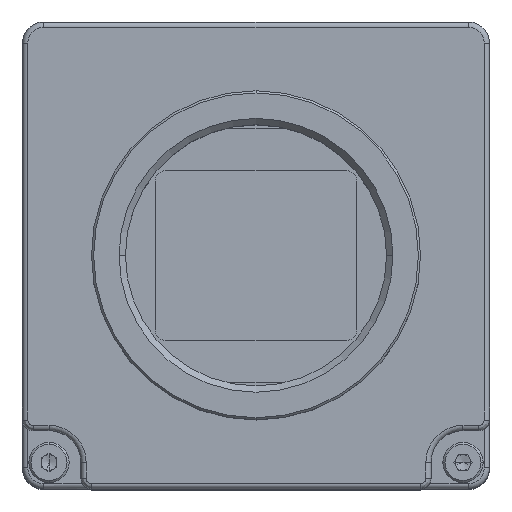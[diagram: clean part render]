
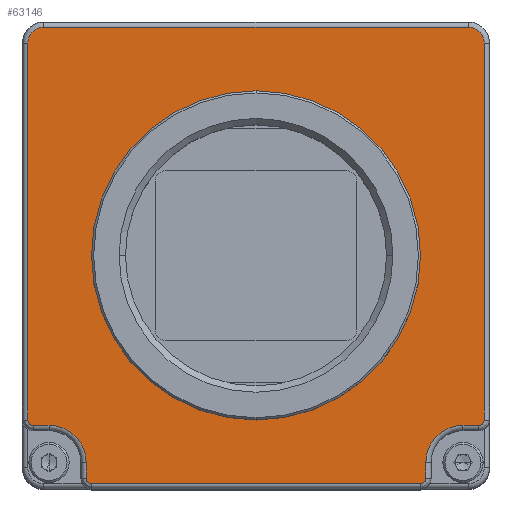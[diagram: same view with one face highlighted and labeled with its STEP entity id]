
A CAD part, top view. The second image highlights one B-rep face of the part: STEP entity #63146.
In plain terms, the highlighted planar face has unit normal (0, 0, 1).
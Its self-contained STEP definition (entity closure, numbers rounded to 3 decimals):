
#5044=CARTESIAN_POINT('',(-75.112,-620.5,82.001));
#5045=DIRECTION('',(0.,0.,1.));
#5046=DIRECTION('',(1.,0.,0.));
#5047=AXIS2_PLACEMENT_3D('',#5044,#5045,#5046);
#5049=CARTESIAN_POINT('',(-76.612,-616.5,82.001));
#5050=DIRECTION('',(0.,0.,-1.));
#5051=DIRECTION('',(0.,-1.,0.));
#5052=AXIS2_PLACEMENT_3D('',#5049,#5050,#5051);
#5054=CARTESIAN_POINT('',(-75.612,-581.,82.001));
#5055=DIRECTION('',(0.,0.,-1.));
#5056=DIRECTION('',(-1.,0.,0.));
#5057=AXIS2_PLACEMENT_3D('',#5054,#5055,#5056);
#5059=CARTESIAN_POINT('',(-35.612,-581.,82.001));
#5060=DIRECTION('',(0.,0.,-1.));
#5061=DIRECTION('',(0.,1.,0.));
#5062=AXIS2_PLACEMENT_3D('',#5059,#5060,#5061);
#5064=CARTESIAN_POINT('',(-34.612,-616.5,82.001));
#5065=DIRECTION('',(0.,0.,-1.));
#5066=DIRECTION('',(1.,0.,0.));
#5067=AXIS2_PLACEMENT_3D('',#5064,#5065,#5066);
#5069=CARTESIAN_POINT('',(-36.112,-620.5,82.001));
#5070=DIRECTION('',(0.,0.,1.));
#5071=DIRECTION('',(0.,1.,0.));
#5072=AXIS2_PLACEMENT_3D('',#5069,#5070,#5071);
#5074=CARTESIAN_POINT('',(-40.112,-622.,82.001));
#5075=DIRECTION('',(0.,0.,-1.));
#5076=DIRECTION('',(1.,0.,0.));
#5077=AXIS2_PLACEMENT_3D('',#5074,#5075,#5076);
#5079=CARTESIAN_POINT('',(-71.112,-622.,82.001));
#5080=DIRECTION('',(0.,0.,-1.));
#5081=DIRECTION('',(0.,-1.,0.));
#5082=AXIS2_PLACEMENT_3D('',#5079,#5080,#5081);
#5084=CARTESIAN_POINT('',(-55.612,-601.,82.001));
#5085=DIRECTION('',(0.,0.,1.));
#5086=DIRECTION('',(0.,-1.,0.));
#5087=AXIS2_PLACEMENT_3D('',#5084,#5085,#5086);
#5089=CARTESIAN_POINT('',(-55.612,-601.,82.001));
#5090=DIRECTION('',(0.,0.,1.));
#5091=DIRECTION('',(0.,1.,0.));
#5092=AXIS2_PLACEMENT_3D('',#5089,#5090,#5091);
#5109=DIRECTION('',(0.,-1.,0.));
#5110=VECTOR('',#5109,1.5);
#5111=CARTESIAN_POINT('',(-71.612,-620.5,82.001));
#5112=LINE('',#5111,#5110);
#5517=DIRECTION('',(1.,0.,0.));
#5518=VECTOR('',#5517,31.);
#5519=CARTESIAN_POINT('',(-71.112,-622.5,82.001));
#5520=LINE('',#5519,#5518);
#5525=DIRECTION('',(0.,1.,0.));
#5526=VECTOR('',#5525,1.5);
#5527=CARTESIAN_POINT('',(-39.612,-622.,82.001));
#5528=LINE('',#5527,#5526);
#5548=DIRECTION('',(1.,0.,0.));
#5549=VECTOR('',#5548,1.5);
#5550=CARTESIAN_POINT('',(-36.112,-617.,82.001));
#5551=LINE('',#5550,#5549);
#5588=DIRECTION('',(0.,1.,0.));
#5589=VECTOR('',#5588,35.5);
#5590=CARTESIAN_POINT('',(-34.112,-616.5,82.001));
#5591=LINE('',#5590,#5589);
#5611=DIRECTION('',(-1.,0.,0.));
#5612=VECTOR('',#5611,40.);
#5613=CARTESIAN_POINT('',(-35.612,-579.5,82.001));
#5614=LINE('',#5613,#5612);
#5634=DIRECTION('',(0.,-1.,0.));
#5635=VECTOR('',#5634,35.5);
#5636=CARTESIAN_POINT('',(-77.112,-581.,82.001));
#5637=LINE('',#5636,#5635);
#5669=DIRECTION('',(1.,0.,0.));
#5670=VECTOR('',#5669,1.5);
#5671=CARTESIAN_POINT('',(-76.612,-617.,82.001));
#5672=LINE('',#5671,#5670);
#49612=CARTESIAN_POINT('',(-55.612,-616.5,82.001));
#49613=CARTESIAN_POINT('',(-55.612,-585.5,82.001));
#49614=VERTEX_POINT('',#49612);
#49615=VERTEX_POINT('',#49613);
#49616=CARTESIAN_POINT('',(-71.612,-620.5,82.001));
#49617=CARTESIAN_POINT('',(-75.112,-617.,82.001));
#49618=VERTEX_POINT('',#49616);
#49619=VERTEX_POINT('',#49617);
#49620=CARTESIAN_POINT('',(-76.612,-617.,82.001));
#49621=VERTEX_POINT('',#49620);
#49622=CARTESIAN_POINT('',(-77.112,-616.5,
82.001));
#49623=VERTEX_POINT('',#49622);
#49624=CARTESIAN_POINT('',(-77.112,-581.,82.001));
#49625=VERTEX_POINT('',#49624);
#49626=CARTESIAN_POINT('',(-75.612,-579.5,82.001));
#49627=VERTEX_POINT('',#49626);
#49628=CARTESIAN_POINT('',(-35.612,-579.5,82.001));
#49629=VERTEX_POINT('',#49628);
#49630=CARTESIAN_POINT('',(-34.112,-581.,82.001));
#49631=VERTEX_POINT('',#49630);
#49632=CARTESIAN_POINT('',(-34.112,-616.5,82.001));
#49633=VERTEX_POINT('',#49632);
#49634=CARTESIAN_POINT('',(-34.612,-617.,82.001));
#49635=VERTEX_POINT('',#49634);
#49636=CARTESIAN_POINT('',(-36.112,-617.,82.001));
#49637=VERTEX_POINT('',#49636);
#49638=CARTESIAN_POINT('',(-39.612,-620.5,82.001));
#49639=VERTEX_POINT('',#49638);
#49640=CARTESIAN_POINT('',(-39.612,-622.,82.001));
#49641=VERTEX_POINT('',#49640);
#49642=CARTESIAN_POINT('',(-40.112,-622.5,82.001));
#49643=VERTEX_POINT('',#49642);
#49644=CARTESIAN_POINT('',(-71.112,-622.5,82.001));
#49645=VERTEX_POINT('',#49644);
#49646=CARTESIAN_POINT('',(-71.612,-622.,
82.001));
#49647=VERTEX_POINT('',#49646);
#63102=CARTESIAN_POINT('',(-55.612,-601.,82.001));
#63103=DIRECTION('',(0.,0.,1.));
#63104=DIRECTION('',(-1.,0.,0.));
#63105=AXIS2_PLACEMENT_3D('',#63102,#63103,#63104);
#63106=PLANE('',#63105);
#63108=ORIENTED_EDGE('',*,*,#63107,.T.);
#63110=ORIENTED_EDGE('',*,*,#63109,.F.);
#63112=ORIENTED_EDGE('',*,*,#63111,.T.);
#63114=ORIENTED_EDGE('',*,*,#63113,.F.);
#63116=ORIENTED_EDGE('',*,*,#63115,.T.);
#63118=ORIENTED_EDGE('',*,*,#63117,.F.);
#63120=ORIENTED_EDGE('',*,*,#63119,.T.);
#63122=ORIENTED_EDGE('',*,*,#63121,.F.);
#63124=ORIENTED_EDGE('',*,*,#63123,.T.);
#63126=ORIENTED_EDGE('',*,*,#63125,.F.);
#63128=ORIENTED_EDGE('',*,*,#63127,.T.);
#63130=ORIENTED_EDGE('',*,*,#63129,.F.);
#63132=ORIENTED_EDGE('',*,*,#63131,.T.);
#63134=ORIENTED_EDGE('',*,*,#63133,.F.);
#63136=ORIENTED_EDGE('',*,*,#63135,.T.);
#63138=ORIENTED_EDGE('',*,*,#63137,.F.);
#63139=EDGE_LOOP('',(#63108,#63110,#63112,#63114,#63116,#63118,#63120,#63122,
#63124,#63126,#63128,#63130,#63132,#63134,#63136,#63138));
#63140=FACE_OUTER_BOUND('',#63139,.F.);
#63141=ORIENTED_EDGE('',*,*,#63092,.T.);
#63143=ORIENTED_EDGE('',*,*,#63142,.T.);
#63144=EDGE_LOOP('',(#63141,#63143));
#63145=FACE_BOUND('',#63144,.F.);
#63146=ADVANCED_FACE('',(#63140,#63145),#63106,.T.);
#5048=CIRCLE('',#5047,3.5);
#5053=CIRCLE('',#5052,0.5);
#5058=CIRCLE('',#5057,1.5);
#5063=CIRCLE('',#5062,1.5);
#5068=CIRCLE('',#5067,0.5);
#5073=CIRCLE('',#5072,3.5);
#5078=CIRCLE('',#5077,0.5);
#5083=CIRCLE('',#5082,0.5);
#5088=CIRCLE('',#5087,15.5);
#5093=CIRCLE('',#5092,15.5);
#63092=EDGE_CURVE('',#49614,#49615,#5088,.T.);
#63107=EDGE_CURVE('',#49618,#49619,#5048,.T.);
#63109=EDGE_CURVE('',#49621,#49619,#5672,.T.);
#63111=EDGE_CURVE('',#49621,#49623,#5053,.T.);
#63113=EDGE_CURVE('',#49625,#49623,#5637,.T.);
#63115=EDGE_CURVE('',#49625,#49627,#5058,.T.);
#63117=EDGE_CURVE('',#49629,#49627,#5614,.T.);
#63119=EDGE_CURVE('',#49629,#49631,#5063,.T.);
#63121=EDGE_CURVE('',#49633,#49631,#5591,.T.);
#63123=EDGE_CURVE('',#49633,#49635,#5068,.T.);
#63125=EDGE_CURVE('',#49637,#49635,#5551,.T.);
#63127=EDGE_CURVE('',#49637,#49639,#5073,.T.);
#63129=EDGE_CURVE('',#49641,#49639,#5528,.T.);
#63131=EDGE_CURVE('',#49641,#49643,#5078,.T.);
#63133=EDGE_CURVE('',#49645,#49643,#5520,.T.);
#63135=EDGE_CURVE('',#49645,#49647,#5083,.T.);
#63137=EDGE_CURVE('',#49618,#49647,#5112,.T.);
#63142=EDGE_CURVE('',#49615,#49614,#5093,.T.);
